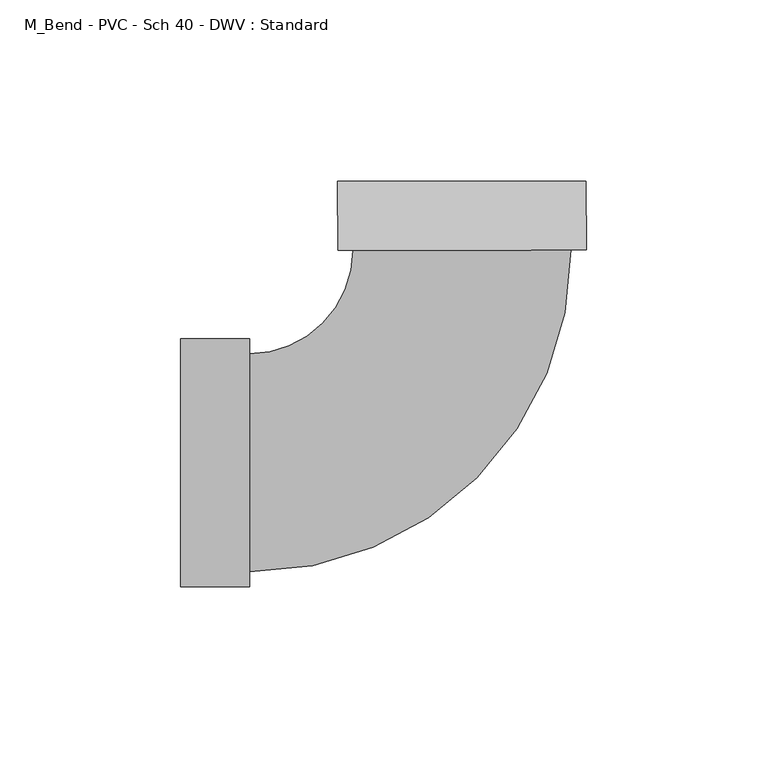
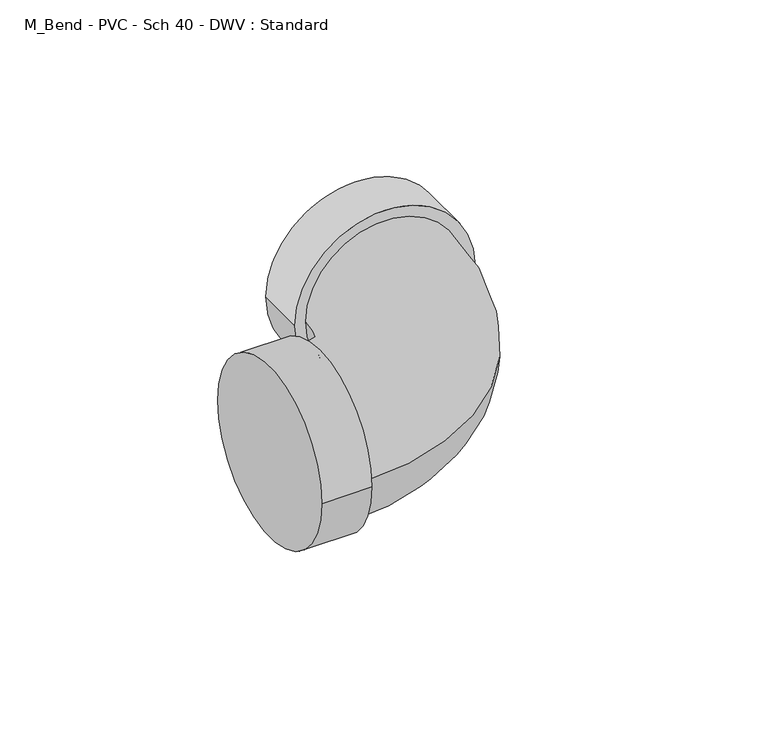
"""IFC4 building model written with IfcOpenShell, lengths in millimetres: pipe fitting geometry, M_Bend - PVC - Sch 40 - DWV : Standard."""

from ifc_helpers import new_model, si_unit, point, frame, origin, place, context, project, spatial, circle_curve, ellipse_curve, trimmed, source, transform, mapped, element, save
from ifc_brep_helpers import plane_surface, cylinder_surface, revolved_surface, advanced_brep


def m_bend_pvc_sch_40_dwv_standard_f9b5f7f8(model_context):
    return source(origin(), model_context, "Body", "AdvancedBrep", [
        advanced_brep(
        [(-77.8002, -34.3154, 0.0), (-77.8002, 34.3154, 0.0), (-58.7502, -34.3154, 0.0), (-58.7502, 34.3154, 0.0), (-58.7502, -30.1625, 0.0), (-58.7502, 30.1625, 0.0), (-30.2445681, 58.7079936, 0.0), (30.080373, 58.7922917, 0.0), (34.233269, 58.798095, 0.0), (-34.397464, 58.7021903, 0.0), (34.2066485, 77.8480764, 0.0), (-34.4240845, 77.7521717, 0.0)],
        [
            (0, 1, circle_curve(frame((-77.8002, 0.0, 0.0), z_axis=(-1.0, 0.0, 0.0), x_axis=(0.0, 1.0, 0.0)), 34.3154)),
            (1, 0, circle_curve(frame((-77.8002, 0.0, 0.0), z_axis=(-1.0, 0.0, 0.0), x_axis=(0.0, 1.0, 0.0)), 34.3154)),
            (2, 3, circle_curve(frame((-58.7502, 0.0, 0.0), z_axis=(1.0, 0.0, 0.0), x_axis=(0.0, 1.0, 0.0)), 34.3154)),
            (3, 2, circle_curve(frame((-58.7502, 0.0, 0.0), z_axis=(1.0, 0.0, 0.0), x_axis=(0.0, 1.0, 0.0)), 34.3154)),
            (4, 5, circle_curve(frame((-58.7502, 0.0, 0.0), z_axis=(-1.0, 0.0, 0.0), x_axis=(0.0, 1.0, 0.0)), 30.1625)),
            (5, 4, circle_curve(frame((-58.7502, 0.0, 0.0), z_axis=(-1.0, 0.0, 0.0), x_axis=(0.0, 1.0, 0.0)), 30.1625)),
            (0, 2),
            (3, 1),
            (6, 5, circle_curve(frame((-58.7502, 58.6681598, 0.0), z_axis=(0.0, 0.0, -1.0), x_axis=(0.0, -1.0, 0.0)), 28.5056598)),
            (4, 7, circle_curve(frame((-58.7502, 58.6681598, 0.0), z_axis=(0.0, 0.0, 1.0), x_axis=(0.0, -1.0, 0.0)), 88.8306598)),
            (7, 6, circle_curve(frame((-0.0820975, 58.7501426, 0.0), z_axis=(0.0013973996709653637, -0.9999990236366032, 0.0), x_axis=(-0.9999990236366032, -0.0013973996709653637, 0.0)), 30.1625)),
            (6, 7, circle_curve(frame((-0.0820975, 58.7501426, 0.0), z_axis=(0.0013973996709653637, -0.9999990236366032, 0.0), x_axis=(-0.9999990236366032, -0.0013973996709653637, 0.0)), 30.1625)),
            (8, 9, circle_curve(frame((-0.0820975, 58.7501426, 0.0), z_axis=(0.0013973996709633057, -0.9999990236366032, 0.0), x_axis=(-0.9999990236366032, -0.0013973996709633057, 0.0)), 34.3154)),
            (9, 8, circle_curve(frame((-0.0820975, 58.7501426, 0.0), z_axis=(0.0013973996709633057, -0.9999990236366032, 0.0), x_axis=(-0.9999990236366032, -0.0013973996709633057, 0.0)), 34.3154)),
            (10, 11, circle_curve(frame((-0.108718, 77.800124, 0.0), z_axis=(-0.0013973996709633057, 0.9999990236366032, 0.0), x_axis=(-0.9999990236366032, -0.0013973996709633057, 0.0)), 34.3154)),
            (11, 10, circle_curve(frame((-0.108718, 77.800124, 0.0), z_axis=(-0.0013973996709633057, 0.9999990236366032, 0.0), x_axis=(-0.9999990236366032, -0.0013973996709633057, 0.0)), 34.3154)),
            (8, 10),
            (11, 9),
        ],
        [
            plane_surface(frame((-77.8002, 0.0, 0.0), z_axis=(-1.0, 0.0, 0.0), x_axis=(0.0, 0.0, 1.0))),
            plane_surface(frame((-58.7502, 0.0, 0.0), z_axis=(1.0, 0.0, 0.0), x_axis=(0.0, 0.0, 1.0))),
            cylinder_surface(frame((-77.8002, 0.0, 0.0), z_axis=(-1.0, 0.0, 0.0), x_axis=(0.0, 1.0, 0.0)), 34.3154),
            revolved_surface(trimmed(ellipse_curve(frame((-58.7502, 0.0, 0.0), z_axis=(-1.0, 0.0, 0.0), x_axis=(0.0, 1.0, 0.0)), 30.1625, 30.1625), [point((-58.7502, -30.1625, 0.0))], [point((-58.7502, 30.1625, 0.0))], True, "CARTESIAN"), (-58.7502, 58.6681598, 0.0), (0.0, 0.0, 1.0)),
            revolved_surface(trimmed(ellipse_curve(frame((-58.7502, 0.0, 0.0), z_axis=(-1.0, 0.0, 0.0), x_axis=(0.0, 1.0, 0.0)), 30.1625, 30.1625), [point((-58.7502, 30.1625, 0.0))], [point((-58.7502, -30.1625, 0.0))], True, "CARTESIAN"), (-58.7502, 58.6681598, 0.0), (0.0, 0.0, 1.0)),
            plane_surface(frame((-0.0820975, 58.7501426, 0.0), z_axis=(0.0013973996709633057, -0.9999990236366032, 0.0), x_axis=(0.0, 0.0, 1.0))),
            plane_surface(frame((-0.108718, 77.800124, 0.0), z_axis=(-0.0013973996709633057, 0.9999990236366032, 0.0), x_axis=(0.0, 0.0, 1.0))),
            cylinder_surface(frame((-0.0820975, 58.7501426, 0.0), z_axis=(0.0013973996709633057, -0.9999990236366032, 0.0), x_axis=(-0.9999990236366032, -0.0013973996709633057, 0.0)), 34.3154),
        ],
        [
            (0, [[1, 2]]),
            (1, [[3, 4], [5, 6]]),
            (2, [[-1, 7, -4, 8]]),
            (2, [[-2, -8, -3, -7]]),
            (3, [[9, -5, 10, 11]]),
            (4, [[-9, 12, -10, -6]]),
            (5, [[13, 14], [-11, -12]]),
            (6, [[15, 16]]),
            (7, [[-13, 17, -16, 18]]),
            (7, [[-14, -18, -15, -17]]),
        ],
    ),
    ])


if __name__ == "__main__":
    model = new_model("IFC4")
    model_context = context("Model", 3, world=origin())
    ifc_project = project(units=[si_unit("LENGTHUNIT", "METRE", prefix="MILLI")], contexts=[model_context])
    site = spatial("IfcSite", under=ifc_project)
    building = spatial("IfcBuilding", under=site)
    placement = place(None, origin())
    m_bend_pvc_sch_40_dwv_standard_shape = m_bend_pvc_sch_40_dwv_standard_f9b5f7f8(model_context)
    element("IfcPipeFitting", 1, ObjectType="M_Bend - PVC - Sch 40 - DWV : Standard", at=placement, inside=building, context=model_context, shape_type="MappedRepresentation", body=[
        mapped(m_bend_pvc_sch_40_dwv_standard_shape, transform((0.0, 0.0, 0.0), x_axis=(1.0, 0.0, 0.0), y_axis=(0.0, 1.0, 0.0), z_axis=(0.0, 0.0, 1.0))),
    ])
    save(model, "model.ifc")
